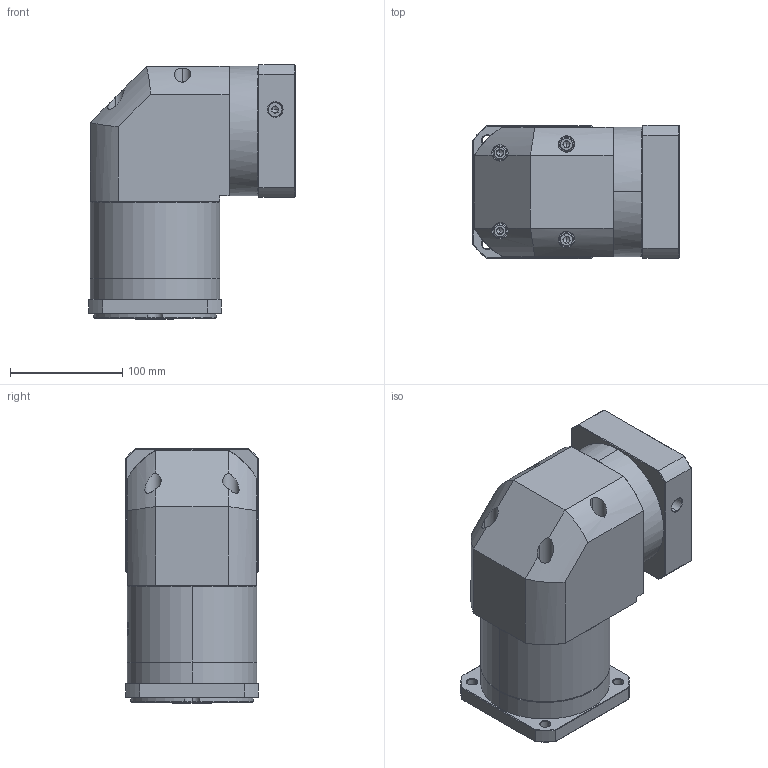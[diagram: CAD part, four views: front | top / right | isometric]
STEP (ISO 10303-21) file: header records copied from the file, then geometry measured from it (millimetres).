
FILE_DESCRIPTION (( 'STEP AP214' ), '1' );
FILE_NAME ('ZFR120A-K25-L2-P2-19-95-115-M6.step', '2023-08-27T08:14:47', ( '' ), ( '' ), 'SwSTEP 2.0', 'SolidWorks 2016', '' );
FILE_SCHEMA (( 'AUTOMOTIVE_DESIGN' ));
Length unit declared in the file: millimetre
Products named in the file (1): ZFR120A-K25-L2-P2-19-95-115-M6
Bounding box: 183.9 x 118 x 226.5 mm (x, y, z)
Volume: 3048899.3 mm3; surface area: 244052.6 mm2
Topology: 6 solids, 6 shells, 2197 faces, 5799 edges, 3706 vertices
Faces by surface type: plane 1053, bspline 419, cylinder 386, cone 331, torus 8
Entity records: 119114 total; most frequent: CARTESIAN_POINT 45848, ORIENTED_EDGE 11542, DIRECTION 8397, EDGE_CURVE 5771, VERTEX_POINT 3706, LINE 3087, VECTOR 3087, AXIS2_PLACEMENT_3D 2655
